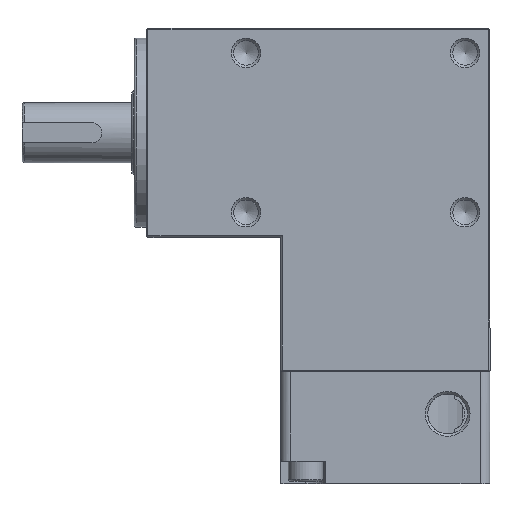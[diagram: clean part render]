
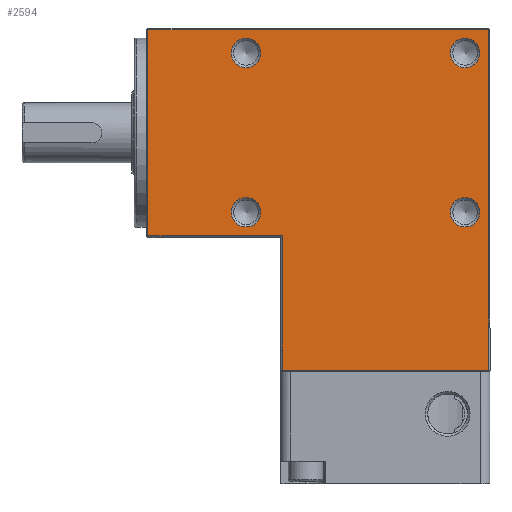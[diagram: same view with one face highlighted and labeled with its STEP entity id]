
A CAD part, top view. The second image highlights one B-rep face of the part: STEP entity #2594.
In plain terms, the highlighted planar face has unit normal (0, 0, 1).
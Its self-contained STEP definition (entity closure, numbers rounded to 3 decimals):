
#2491=CARTESIAN_POINT('',(-25.041,-16.0,42.0));
#2492=VERTEX_POINT('',#2491);
#2493=CARTESIAN_POINT('',(-28.,-16.0,42.0));
#2494=DIRECTION('',(0.0,0.0,1.0));
#2495=DIRECTION('',(-1.0,0.0,0.0));
#2496=AXIS2_PLACEMENT_3D('',#2493,#2494,#2495);
#2497=CIRCLE('',#2496,2.958);
#2498=EDGE_CURVE('',#2492,#2492,#2497,.T.);
#2503=CARTESIAN_POINT('',(0.,-34.5,42.0));
#2504=DIRECTION('',(0.0,0.0,1.0));
#2505=DIRECTION('',(1.0,0.0,0.0));
#2506=AXIS2_PLACEMENT_3D('',#2503,#2504,#2505);
#2507=PLANE('',#2506);
#2508=CARTESIAN_POINT('',(-20.7,-47.7,42.0));
#2509=VERTEX_POINT('',#2508);
#2510=CARTESIAN_POINT('',(-20.7,-20.7,42.0));
#2511=VERTEX_POINT('',#2510);
#2512=CARTESIAN_POINT('',(-20.7,-47.7,42.0));
#2513=DIRECTION('',(0.0,1.0,0.0));
#2514=VECTOR('',#2513,27.0);
#2515=LINE('',#2512,#2514);
#2516=EDGE_CURVE('',#2509,#2511,#2515,.T.);
#2517=ORIENTED_EDGE('',*,*,#2516,.F.);
#2518=CARTESIAN_POINT('',(20.7,-47.7,42.0));
#2519=VERTEX_POINT('',#2518);
#2520=CARTESIAN_POINT('',(20.7,-47.7,42.0));
#2521=DIRECTION('',(-1.0,0.0,0.0));
#2522=VECTOR('',#2521,41.4);
#2523=LINE('',#2520,#2522);
#2524=EDGE_CURVE('',#2519,#2509,#2523,.T.);
#2525=ORIENTED_EDGE('',*,*,#2524,.F.);
#2526=CARTESIAN_POINT('',(20.7,20.7,42.0));
#2527=VERTEX_POINT('',#2526);
#2528=CARTESIAN_POINT('',(20.7,20.7,42.0));
#2529=DIRECTION('',(0.0,-1.0,0.0));
#2530=VECTOR('',#2529,68.4);
#2531=LINE('',#2528,#2530);
#2532=EDGE_CURVE('',#2527,#2519,#2531,.T.);
#2533=ORIENTED_EDGE('',*,*,#2532,.F.);
#2534=CARTESIAN_POINT('',(-47.7,20.7,42.0));
#2535=VERTEX_POINT('',#2534);
#2536=CARTESIAN_POINT('',(-47.7,20.7,42.0));
#2537=DIRECTION('',(1.0,0.0,0.0));
#2538=VECTOR('',#2537,68.4);
#2539=LINE('',#2536,#2538);
#2540=EDGE_CURVE('',#2535,#2527,#2539,.T.);
#2541=ORIENTED_EDGE('',*,*,#2540,.F.);
#2542=CARTESIAN_POINT('',(-47.7,-20.7,42.0));
#2543=VERTEX_POINT('',#2542);
#2544=CARTESIAN_POINT('',(-47.7,-20.7,42.0));
#2545=DIRECTION('',(0.0,1.0,0.0));
#2546=VECTOR('',#2545,41.4);
#2547=LINE('',#2544,#2546);
#2548=EDGE_CURVE('',#2543,#2535,#2547,.T.);
#2549=ORIENTED_EDGE('',*,*,#2548,.F.);
#2550=CARTESIAN_POINT('',(-20.7,-20.7,42.0));
#2551=DIRECTION('',(-1.0,0.0,0.0));
#2552=VECTOR('',#2551,27.);
#2553=LINE('',#2550,#2552);
#2554=EDGE_CURVE('',#2511,#2543,#2553,.T.);
#2555=ORIENTED_EDGE('',*,*,#2554,.F.);
#2556=EDGE_LOOP('',(#2517,#2525,#2533,#2541,#2549,#2555));
#2557=FACE_OUTER_BOUND('',#2556,.T.);
#2558=CARTESIAN_POINT('',(18.958,-16.0,42.0));
#2559=VERTEX_POINT('',#2558);
#2560=CARTESIAN_POINT('',(16.,-16.0,42.0));
#2561=DIRECTION('',(0.0,0.0,1.0));
#2562=DIRECTION('',(-1.0,0.0,0.0));
#2563=AXIS2_PLACEMENT_3D('',#2560,#2561,#2562);
#2564=CIRCLE('',#2563,2.959);
#2565=EDGE_CURVE('',#2559,#2559,#2564,.T.);
#2566=ORIENTED_EDGE('',*,*,#2565,.F.);
#2567=EDGE_LOOP('',(#2566));
#2568=FACE_BOUND('',#2567,.T.);
#2569=CARTESIAN_POINT('',(-25.042,16.0,42.0));
#2570=VERTEX_POINT('',#2569);
#2571=CARTESIAN_POINT('',(-28.,16.0,42.0));
#2572=DIRECTION('',(0.0,0.0,1.0));
#2573=DIRECTION('',(-1.0,0.0,0.0));
#2574=AXIS2_PLACEMENT_3D('',#2571,#2572,#2573);
#2575=CIRCLE('',#2574,2.958);
#2576=EDGE_CURVE('',#2570,#2570,#2575,.T.);
#2577=ORIENTED_EDGE('',*,*,#2576,.F.);
#2578=EDGE_LOOP('',(#2577));
#2579=FACE_BOUND('',#2578,.T.);
#2580=CARTESIAN_POINT('',(18.959,16.0,42.0));
#2581=VERTEX_POINT('',#2580);
#2582=CARTESIAN_POINT('',(16.0,16.0,42.0));
#2583=DIRECTION('',(0.0,0.0,1.0));
#2584=DIRECTION('',(-1.0,0.0,0.0));
#2585=AXIS2_PLACEMENT_3D('',#2582,#2583,#2584);
#2586=CIRCLE('',#2585,2.959);
#2587=EDGE_CURVE('',#2581,#2581,#2586,.T.);
#2588=ORIENTED_EDGE('',*,*,#2587,.F.);
#2589=EDGE_LOOP('',(#2588));
#2590=FACE_BOUND('',#2589,.T.);
#2591=ORIENTED_EDGE('',*,*,#2498,.F.);
#2592=EDGE_LOOP('',(#2591));
#2593=FACE_BOUND('',#2592,.T.);
#2594=ADVANCED_FACE('',(#2557,#2568,#2579,#2590,#2593),#2507,.T.);
